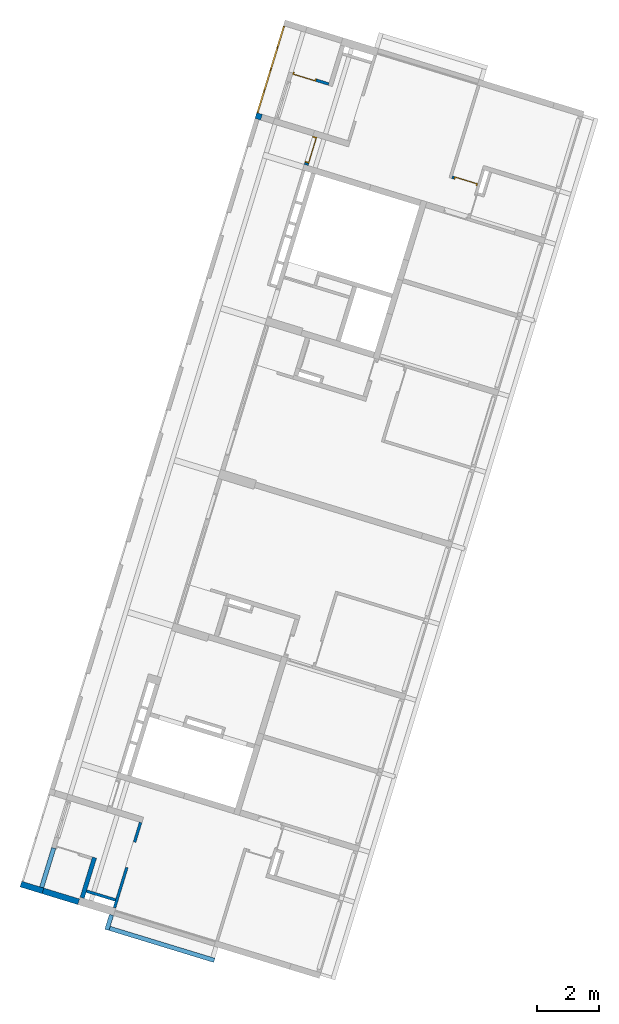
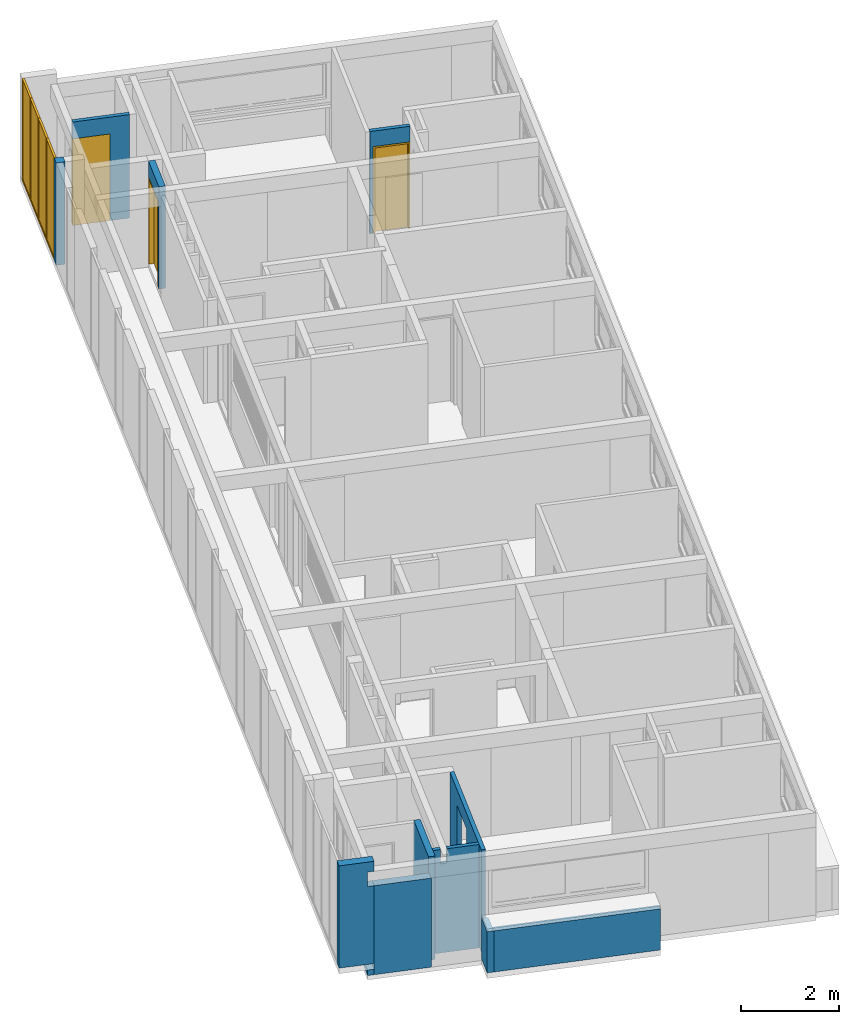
# One storey, part 4 of 18: 12 walls, 4 windows, 3 doors, 8 openings.
"""IFC2X3 building model written with IfcOpenShell, lengths in millimetres."""

from ifc_helpers import new_model, entity, si_unit, converted_unit, derived_unit, money_unit, direction, frame, origin_with_axes, place, context, subcontext, project, spatial, open_shell, faceted_brep, surface_model, source, transform, mapped, material, type_object, element, fill, save


model = new_model("IFC2X3")

# Units and contexts
model_context = context("Model", 3, precision=0.01, world=origin_with_axes(), true_north=direction((0.0, 1.0)))
body_context = subcontext(model_context, "Body", "Model", "MODEL_VIEW")
ifc_project = project(units=[si_unit("LENGTHUNIT", "METRE", prefix="MILLI"), si_unit("AREAUNIT", "SQUARE_METRE"), si_unit("VOLUMEUNIT", "CUBIC_METRE"), converted_unit("PLANEANGLEUNIT", "DEGREE", entity("IfcPlaneAngleMeasure", 0.0174532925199), si_unit("PLANEANGLEUNIT", "RADIAN"), dimensions=[0, 0, 0, 0, 0, 0, 0]), money_unit("USD"), converted_unit("TIMEUNIT", "Year", entity("IfcTimeMeasure", 31556926.0), si_unit("TIMEUNIT", "SECOND"), dimensions=[0, 0, 1, 0, 0, 0, 0]), si_unit("MASSUNIT", "GRAM", prefix="KILO"), si_unit("THERMODYNAMICTEMPERATUREUNIT", "DEGREE_CELSIUS"), si_unit("LUMINOUSINTENSITYUNIT", "LUMEN"), si_unit("ENERGYUNIT", "JOULE", prefix="MEGA"), derived_unit("THERMALCONDUCTANCEUNIT", [(si_unit("POWERUNIT", "WATT"), 1), (si_unit("LENGTHUNIT", "METRE"), -1), (si_unit("THERMODYNAMICTEMPERATUREUNIT", "KELVIN"), -1)]), derived_unit("SPECIFICHEATCAPACITYUNIT", [(si_unit("ENERGYUNIT", "JOULE"), 1), (si_unit("MASSUNIT", "GRAM", prefix="KILO"), -1), (si_unit("THERMODYNAMICTEMPERATUREUNIT", "KELVIN"), -1)]), derived_unit("MASSDENSITYUNIT", [(si_unit("MASSUNIT", "GRAM", prefix="KILO"), 1), (si_unit("VOLUMEUNIT", "CUBIC_METRE"), -1)])], contexts=[model_context])

# Site, building, storey, space
site_placement = place(None, frame((0.0, 0.0, 0.0), z_axis=(0.0, 0.0, 1.0), x_axis=(0.956304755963, -0.292371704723, 0.0)))
site = spatial("IfcSite", under=ifc_project, at=site_placement, Name="Site", CompositionType="ELEMENT")
building_placement = place(site_placement, origin_with_axes())
building = spatial("IfcBuilding", under=site, at=building_placement, Name="Building", CompositionType="ELEMENT")
storey_placement = place(building_placement, origin_with_axes())
storey = spatial("IfcBuildingStorey", under=building, at=storey_placement, Name="Pavimento tipo", CompositionType="ELEMENT", Elevation=0.0)
space_1_placement = place(storey_placement, frame((1481.71507604, 4250.00139822, 0.0), z_axis=(0.0, 0.0, 1.0), x_axis=(3.39571890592e-07, -1.0, 0.0)))
space_1 = spatial("IfcSpace", under=storey, at=space_1_placement, Name="01", CompositionType="ELEMENT", InteriorOrExteriorSpace="INTERNAL")

# Wall
ifc_material = material(Name="Tijolo - Estrutural")
wall_type_1 = type_object("IfcWallType", Name="Tijolo - Estrutural 90", PredefinedType="NOTDEFINED")
wall_1_placement = place(space_1_placement, frame((3755.01121696, -70.0050285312, -30.0), z_axis=(0.0, 0.0, 1.0), x_axis=(3.40450498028e-07, 1.0, 0.0)))
element("IfcWall", 1, at=wall_1_placement, inside=space_1, type_object=wall_type_1, material=ifc_material, Name="Apt 01 - Parede 05", context=body_context, shape_type="Brep", body=[
    faceted_brep([(230.002125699, 45.0000002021, 2590.0), (230.002125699, 45.0000002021, 2230.0), (370.002125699, 45.0000003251, 2230.0), (370.002125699, 45.0000003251, 2590.0), (1039.99987828, 45.0000009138, 2590.0), (1039.99966569, 45.0000009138, 0.0), (70.0000063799, 45.0000000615, 0.0), (70.0000063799, 45.0000000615, 2590.0), (230.002125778, -44.9999997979, 2230.0), (230.002125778, -44.9999997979, 2590.0), (370.002125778, -44.9999996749, 2230.0), (370.002125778, -44.9999996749, 2590.0), (1039.99987836, -44.9999990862, 2590.0), (1039.99965848, -44.9999990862, 0.0), (70.0000064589, -44.9999999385, 0.0), (70.0000064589, -44.9999999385, 2590.0)], [[[0, 1, 2, 3, 4, 5, 6, 7]], [[8, 1, 0, 9]], [[10, 2, 1, 8]], [[10, 11, 3, 2]], [[4, 3, 11, 12]], [[4, 12, 13, 5]], [[14, 6, 5, 13]], [[6, 14, 15, 7]], [[15, 9, 0, 7]], [[10, 8, 9, 15, 14, 13, 12, 11]]]),
])

# Wall, opening
wall_2_placement = place(space_1_placement, frame((4000.0016946, 1014.9947666, 0.0), z_axis=(0.0, 0.0, 1.0), x_axis=(-1.0, 3.39571890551e-07, 0.0)))
wall_2 = element("IfcWall", 2, at=wall_2_placement, inside=space_1, type_object=wall_type_1, material=ifc_material, Name="Apt 01 - Parede 18", context=body_context, shape_type="Brep", body=[
    faceted_brep([(1350.0006258, -45.0, 0.0), (1350.0006258, -45.0, 2170.0), (2200.0006258, -45.0, 2170.0), (2200.0006258, -45.0, 0.0), (2859.99983929, -45.0, 0.0), (2859.99983929, -45.0, 2560.0), (0.0, -45.0, 2560.0), (0.0, -45.0, 0.0), (1350.0006258, 45.0, 0.0), (1350.0006258, 45.0, 2170.0), (2200.0006258, 45.0, 2170.0), (2200.0006258, 45.0, 0.0), (2860.00016071, 45.0, 0.0), (2860.00016071, 45.0, 2560.0), (0.0, 45.0, 2560.0), (0.0, 45.0, 0.0)], [[[0, 1, 2, 3, 4, 5, 6, 7]], [[1, 0, 8, 9]], [[2, 1, 9, 10]], [[3, 2, 10, 11]], [[3, 11, 12, 4]], [[5, 4, 12, 13]], [[13, 14, 6, 5]], [[6, 14, 15, 7]], [[8, 0, 7, 15]], [[9, 8, 15, 14, 13, 12, 11, 10]]]),
])
opening_1_placement = place(wall_2_placement, frame((1775.0006258, 0.0, 0.0), z_axis=(0.0, 0.0, 1.0), x_axis=(1.0, 0.0, 0.0)))
element("IfcOpeningElement", 3, at=opening_1_placement, cuts=wall_2, Name="Apt 01 - Vão 01", context=body_context, shape_type="Brep", body=[
    faceted_brep([(425.0, -45.0, 0.0), (425.0, -45.0, 2170.0), (425.0, -46.0, 2170.0), (425.0, -46.0, 0.0), (425.0, 46.0, 0.0), (425.0, 46.0, 2170.0), (-425.0, -45.0, 2170.0), (-425.0, -46.0, 2170.0), (-425.0, -46.0, 0.0), (-425.0, -45.0, 0.0), (-425.0, 46.0, 0.0), (-425.0, 46.0, 2170.0)], [[[0, 1, 2, 3]], [[1, 0, 4, 5]], [[1, 6, 7, 2]], [[8, 3, 2, 7]], [[9, 0, 3, 8]], [[0, 9, 10, 4]], [[5, 4, 10, 11]], [[6, 1, 5, 11]], [[6, 9, 8, 7]], [[9, 6, 11, 10]]]),
])

# Space
space_2_placement = place(storey_placement, frame((1481.71158317, 24839.9981298, 0.0), z_axis=(0.0, 0.0, 1.0), x_axis=(1.0, -1.55460451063e-08, 0.0)))
space_2 = spatial("IfcSpace", under=storey, at=space_2_placement, Name="04", CompositionType="ELEMENT", InteriorOrExteriorSpace="INTERNAL")

# Wall, opening, door
wall_3_placement = place(space_2_placement, frame((-69.9999011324, 2650.00180861, -30.0), z_axis=(0.0, 0.0, 1.0), x_axis=(-0.999999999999, 1.55527101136e-06, 0.0)))
wall_3 = element("IfcWall", 4, at=wall_3_placement, inside=space_2, type_object=wall_type_1, material=ifc_material, Name="Apt 04 - Parede 06", context=body_context, shape_type="Brep", body=[
    faceted_brep([(1270.0186412, 0.0, 2170.0), (1270.0186412, 0.0, 2230.0), (1270.01999645, -90.0, 2230.0), (1270.0186412, -90.0, 2170.0), (490.018641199, 0.0, 2170.0), (490.018641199, 0.0, 0.0), (70.0000000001, 0.0, 0.0), (70.0000000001, 0.0, 2590.0), (1269.99827489, 0.0, 2590.0), (1269.99827489, 0.0, 2230.0), (1269.99841626, -90.0, 2230.0), (1269.99841626, -90.0, 2590.0), (70.0001413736, -90.0, 2590.0), (70.0001413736, -90.0, 0.0), (490.018641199, -90.0, 0.0), (490.018641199, -90.0, 2170.0)], [[[0, 1, 2, 3]], [[1, 0, 4, 5, 6, 7, 8, 9]], [[1, 9, 10, 2]], [[2, 10, 11, 12, 13, 14, 15, 3]], [[0, 3, 15, 4]], [[5, 4, 15, 14]], [[5, 14, 13, 6]], [[13, 12, 7, 6]], [[8, 7, 12, 11]], [[10, 9, 8, 11]]]),
])
opening_2_placement = place(wall_3_placement, frame((880.018641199, 0.0, 0.0), z_axis=(0.0, 0.0, 1.0), x_axis=(1.0, 0.0, 0.0)))
opening_2 = element("IfcOpeningElement", 5, at=opening_2_placement, cuts=wall_3, Name="Apt 04 - Porta 02", context=body_context, shape_type="Brep", body=[
    faceted_brep([(390.0, 1.00199496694, 2170.0), (390.0, 1.00199496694, 0.0), (-390.0, 1.00199496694, 0.0), (-390.0, 1.00199496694, 2170.0), (390.0, -91.0019949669, 2170.0), (390.0, -91.0019949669, 0.0), (-390.0, -91.0019949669, 0.0), (-390.0, -91.0019949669, 2170.0)], [[[0, 1, 2, 3]], [[4, 5, 1, 0]], [[5, 6, 2, 1]], [[6, 7, 3, 2]], [[7, 4, 0, 3]], [[6, 5, 4, 7]]]),
])
door_style_1 = type_object("IfcDoorStyle", Name="Door 26", ConstructionType="NOTDEFINED", OperationType="SINGLE_SWING_RIGHT", ParameterTakesPrecedence=False, Sizeable=False)
shared_shape_1 = source(origin_with_axes(), body_context, "Body", "Brep", [
    faceted_brep([(-350.0, -30.0, 0.0), (-350.0, -30.0, 2130.0), (-350.0, -90.0, 2130.0), (-350.0, -90.0, 0.0), (-360.0, -30.0, 2130.0), (-360.0, -30.0, 0.0), (-360.0, 0.0, 2130.0), (-390.0, 0.0, 2130.0), (-390.0, -90.0, 2130.0), (-390.0, -90.0, 0.0), (-390.0, 0.0, 0.0), (-360.0, 0.0, 0.0)], [[[0, 1, 2, 3]], [[4, 1, 0, 5]], [[4, 6, 7, 8, 2, 1]], [[3, 2, 8, 9]], [[5, 0, 3, 9, 10, 11]], [[6, 4, 5, 11]], [[6, 11, 10, 7]], [[10, 9, 8, 7]]]),
    faceted_brep([(360.0, -30.0, 2130.0), (350.0, -30.0, 2130.0), (350.0, -90.0, 2130.0), (390.0, -90.0, 2130.0), (390.0, 0.0, 2130.0), (360.0, 0.0, 2130.0), (360.0, -30.0, 0.0), (350.0, -30.0, 0.0), (350.0, -90.0, 0.0), (390.0, -90.0, 0.0), (390.0, 0.0, 0.0), (360.0, 0.0, 0.0)], [[[0, 1, 2, 3, 4, 5]], [[1, 0, 6, 7]], [[1, 7, 8, 2]], [[3, 2, 8, 9]], [[4, 3, 9, 10]], [[11, 5, 4, 10]], [[0, 5, 11, 6]], [[6, 11, 10, 9, 8, 7]]]),
    faceted_brep([(-360.0, 0.0, 2140.0), (-360.0, 0.0, 2130.0), (-390.0, 0.0, 2130.0), (-390.0, 0.0, 2170.0), (390.0, 0.0, 2170.0), (390.0, 0.0, 2130.0), (360.0, 0.0, 2130.0), (360.0, 0.0, 2140.0), (-360.0, -30.0, 2140.0), (-360.0, -30.0, 2130.0), (-350.0, -30.0, 2130.0), (-350.0, -90.0, 2130.0), (-390.0, -90.0, 2130.0), (-390.0, -90.0, 2170.0), (390.0, -90.0, 2170.0), (390.0, -90.0, 2130.0), (360.0, -30.0, 2130.0), (350.0, -90.0, 2130.0), (350.0, -30.0, 2130.0), (360.0, -30.0, 2140.0)], [[[0, 1, 2, 3, 4, 5, 6, 7]], [[1, 0, 8, 9]], [[9, 10, 11, 12, 2, 1]], [[2, 12, 13, 3]], [[3, 13, 14, 4]], [[4, 14, 15, 5]], [[16, 6, 5, 15, 17, 18]], [[7, 6, 16, 19]], [[0, 7, 19, 8]], [[16, 18, 10, 9, 8, 19]], [[10, 18, 17, 11]], [[17, 15, 14, 13, 12, 11]]]),
    faceted_brep([(360.0, 0.0, 0.0), (360.0, -30.0, 0.0), (-360.0, -30.0, 0.0), (-360.0, 0.0, 0.0), (360.0, 0.0, 2140.0), (360.0, -30.0, 2140.0), (-360.0, -30.0, 2140.0), (-360.0, 0.0, 2140.0)], [[[0, 1, 2, 3]], [[4, 5, 1, 0]], [[1, 5, 6, 2]], [[3, 2, 6, 7]], [[0, 3, 7, 4]], [[7, 6, 5, 4]]]),
])
door_1_placement = place(opening_2_placement, frame((-390.0, 0.0, 0.0), z_axis=(0.0, 0.0, 1.0), x_axis=(1.0, 0.0, 0.0)))
door_1 = element("IfcDoor", 6, at=door_1_placement, inside=space_2, type_object=door_style_1, Name="Apt 04 - Porta 02", OverallHeight=2170.0, OverallWidth=780.0, context=body_context, shape_type="MappedRepresentation", body=[
    mapped(shared_shape_1, transform((390.0, 0.0, 0.0))),
])
fill(opening_2, door_1)

wall_4_placement = place(space_2_placement, frame((4430.00185041, 949.991973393, 0.0), z_axis=(0.0, 0.0, 1.0), x_axis=(1.0, 8.21768756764e-08, 0.0)))
wall_4 = element("IfcWall", 7, at=wall_4_placement, inside=space_2, type_object=wall_type_1, material=ifc_material, Name="Apt 04 - Parede 10", context=body_context, shape_type="Brep", body=[
    faceted_brep([(939.998515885, -6.26328819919e-05, 2170.0), (939.998521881, 89.9999373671, 2170.0), (939.998891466, 89.9999373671, 2560.0), (939.998891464, -6.26329068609e-05, 2560.0), (159.998521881, 89.9999893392, 2170.0), (159.998515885, -1.06608339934e-05, 2170.0), (159.998521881, 89.9999893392, 0.0), (90.0000843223, 89.9999940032, 0.0), (90.0000843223, 89.9999940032, 2560.0), (90.0, -5.99677463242e-06, 2560.0), (90.0, -5.99677463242e-06, 0.0), (159.998515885, -1.06608339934e-05, 0.0)], [[[0, 1, 2, 3]], [[4, 1, 0, 5]], [[4, 6, 7, 8, 2, 1]], [[2, 8, 9, 3]], [[5, 0, 3, 9, 10, 11]], [[6, 4, 5, 11]], [[6, 11, 10, 7]], [[7, 10, 9, 8]]]),
])
opening_3_placement = place(wall_4_placement, frame((549.998515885, 0.0, 0.0), z_axis=(0.0, 0.0, 1.0), x_axis=(1.0, 0.0, 0.0)))
opening_3 = element("IfcOpeningElement", 8, at=opening_3_placement, cuts=wall_4, Name="Apt 04 - Porta 03", context=body_context, shape_type="Brep", body=[
    faceted_brep([(390.000006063, 91.0, 2170.0), (390.000006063, 91.0, 0.0), (-389.999993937, 91.0000519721, 0.0), (-389.999993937, 91.0000519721, 2170.0), (389.999999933, -1.00006263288, 2170.0), (389.999999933, -1.00006263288, 0.0), (-390.000000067, -1.00001066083, 0.0), (-390.000000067, -1.00001066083, 2170.0)], [[[0, 1, 2, 3]], [[4, 5, 1, 0]], [[5, 6, 2, 1]], [[6, 7, 3, 2]], [[7, 4, 0, 3]], [[6, 5, 4, 7]]]),
])
door_style_2 = type_object("IfcDoorStyle", Name="Door 26", ConstructionType="NOTDEFINED", OperationType="SINGLE_SWING_LEFT", ParameterTakesPrecedence=False, Sizeable=False)
shared_shape_2 = source(origin_with_axes(), body_context, "Body", "Brep", [
    faceted_brep([(350.0, -30.0, 0.0), (350.0, -90.0, 0.0), (350.0, -90.0, 2130.0), (350.0, -30.0, 2130.0), (360.0, -30.0, 0.0), (360.0, 0.0, 0.0), (390.0, 0.0, 0.0), (390.0, -90.0, 0.0), (390.0, -90.0, 2130.0), (360.0, -30.0, 2130.0), (390.0, 0.0, 2130.0), (360.0, 0.0, 2130.0)], [[[0, 1, 2, 3]], [[4, 5, 6, 7, 1, 0]], [[1, 7, 8, 2]], [[9, 3, 2, 8, 10, 11]], [[9, 4, 0, 3]], [[11, 5, 4, 9]], [[11, 10, 6, 5]], [[6, 10, 8, 7]]]),
    faceted_brep([(-360.0, -30.0, 2130.0), (-360.0, 0.0, 2130.0), (-390.0, 0.0, 2130.0), (-390.0, -90.0, 2130.0), (-350.0, -90.0, 2130.0), (-350.0, -30.0, 2130.0), (-360.0, -30.0, 0.0), (-360.0, 0.0, 0.0), (-390.0, 0.0, 0.0), (-390.0, -90.0, 0.0), (-350.0, -90.0, 0.0), (-350.0, -30.0, 0.0)], [[[0, 1, 2, 3, 4, 5]], [[0, 6, 7, 1]], [[7, 8, 2, 1]], [[2, 8, 9, 3]], [[3, 9, 10, 4]], [[5, 4, 10, 11]], [[5, 11, 6, 0]], [[6, 11, 10, 9, 8, 7]]]),
    faceted_brep([(360.0, 0.0, 2140.0), (-360.0, 0.0, 2140.0), (-360.0, 0.0, 2130.0), (-390.0, 0.0, 2130.0), (-390.0, 0.0, 2170.0), (390.0, 0.0, 2170.0), (390.0, 0.0, 2130.0), (360.0, 0.0, 2130.0), (360.0, -30.0, 2140.0), (-360.0, -30.0, 2140.0), (-360.0, -30.0, 2130.0), (-350.0, -30.0, 2130.0), (-350.0, -90.0, 2130.0), (-390.0, -90.0, 2130.0), (-390.0, -90.0, 2170.0), (390.0, -90.0, 2170.0), (390.0, -90.0, 2130.0), (360.0, -30.0, 2130.0), (350.0, -90.0, 2130.0), (350.0, -30.0, 2130.0)], [[[0, 1, 2, 3, 4, 5, 6, 7]], [[0, 8, 9, 1]], [[1, 9, 10, 2]], [[10, 11, 12, 13, 3, 2]], [[4, 3, 13, 14]], [[5, 4, 14, 15]], [[6, 5, 15, 16]], [[17, 7, 6, 16, 18, 19]], [[7, 17, 8, 0]], [[10, 9, 8, 17, 19, 11]], [[19, 18, 12, 11]], [[12, 18, 16, 15, 14, 13]]]),
    faceted_brep([(-360.0, 0.0, 0.0), (360.0, 0.0, 0.0), (360.0, -30.0, 0.0), (-360.0, -30.0, 0.0), (-360.0, 0.0, 2140.0), (360.0, 0.0, 2140.0), (360.0, -30.0, 2140.0), (-360.0, -30.0, 2140.0)], [[[0, 1, 2, 3]], [[0, 4, 5, 1]], [[1, 5, 6, 2]], [[3, 2, 6, 7]], [[4, 0, 3, 7]], [[5, 4, 7, 6]]]),
])
door_2_placement = place(opening_3_placement, frame((-390.0, 0.0, 0.0), z_axis=(0.0, 0.0, 1.0), x_axis=(1.0, 0.0, 0.0)))
door_2 = element("IfcDoor", 9, at=door_2_placement, inside=space_2, type_object=door_style_2, Name="Apt 04 - Porta 03", OverallHeight=2170.0, OverallWidth=780.0, context=body_context, shape_type="MappedRepresentation", body=[
    mapped(shared_shape_2, transform((390.000005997, 89.9999633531, 0.0))),
])
fill(opening_3, door_2)

# Walls
wall_type_2 = type_object("IfcWallType", Name="Tijolo - Estrutural 140", PredefinedType="NOTDEFINED")
wall_5_placement = place(space_1_placement, frame((4250.00089507, -1481.71651922, -30.0), z_axis=(0.0, 0.0, 1.0), x_axis=(-0.99999934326, 0.00114607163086, 0.0)))
element("IfcWall", 10, at=wall_5_placement, inside=space_1, type_object=wall_type_2, material=ifc_material, Name="Parede 67", context=body_context, shape_type="Brep", body=[
    faceted_brep([(0.0, -140.0, 140.0), (1510.00071376, -140.0, 140.0), (1510.00071376, 0.0, 140.0), (0.0, 0.0, 140.0), (0.0, -140.0, 0.0), (1510.00071376, -140.0, 0.0), (1510.00071376, 0.0, 0.0), (0.0, 0.0, 0.0)], [[[0, 1, 2, 3]], [[4, 5, 1, 0]], [[2, 1, 5, 6]], [[3, 2, 6, 7]], [[4, 0, 3, 7]], [[7, 6, 5, 4]]]),
])
wall_6_placement = place(space_1_placement, frame((4000.00132617, -70.0051053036, -30.0), z_axis=(0.0, 0.0, 1.0), x_axis=(-1.0, 3.39571890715e-07, 0.0)))
element("IfcWall", 11, at=wall_6_placement, inside=space_1, type_object=wall_type_2, material=ifc_material, Name="Apt 01 - Parede 17", context=body_context, shape_type="Brep", body=[
    faceted_brep([(1349.99020479, -70.0, 2590.0), (1349.98998487, 70.0, 2590.0), (0.0, 70.0, 2590.0), (0.0, -70.0, 2590.0), (1349.99020479, -70.0, 0.0), (1349.98998487, 70.0, 0.0), (0.0, 70.0, 0.0), (0.0, -70.0, 0.0)], [[[0, 1, 2, 3]], [[1, 0, 4, 5]], [[1, 5, 6, 2]], [[7, 3, 2, 6]], [[4, 0, 3, 7]], [[5, 4, 7, 6]]]),
])
wall_7_placement = place(space_1_placement, frame((4750.00195538, 1059.99389981, 0.0), z_axis=(0.0, 0.0, 1.0), x_axis=(3.41025143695e-07, 1.0, 0.0)))
element("IfcWall", 12, at=wall_7_placement, inside=space_1, type_object=wall_type_2, material=ifc_material, Name="Apt 01 - Parede 26", context=body_context, shape_type="Brep", body=[
    faceted_brep([(3510.0001812, 140.000005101, 0.0), (3510.00018141, 5.10091902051e-06, 0.0), (0.0, 0.0, 0.0), (-1.95606641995e-07, 140.0, 0.0), (3510.0001812, 140.000005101, 1030.0), (3510.00018141, 5.10091913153e-06, 1030.0), (0.0, 0.0, 1030.0), (-1.95606641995e-07, 140.0, 1030.0)], [[[0, 1, 2, 3]], [[1, 0, 4, 5]], [[1, 5, 6, 2]], [[7, 3, 2, 6]], [[4, 0, 3, 7]], [[5, 4, 7, 6]]]),
])
wall_8_placement = place(storey_placement, frame((2541.71058885, 4.82766466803e-05, 0.0), z_axis=(0.0, 0.0, 1.0), x_axis=(0.0, -1.0, 0.0)))
element("IfcWall", 13, at=wall_8_placement, inside=storey, type_object=wall_type_2, material=ifc_material, Name="Apt 01 - Parede 25", context=body_context, shape_type="Brep", body=[
    faceted_brep([(500.000245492, 2.80317991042e-08, 0.0), (0.0100139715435, 0.00112654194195, 0.0), (0.0100139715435, 0.00112654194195, 1030.0), (500.000245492, 2.80317991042e-08, 1030.0), (500.000245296, -139.999999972, 0.0), (0.0100139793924, -140.0, 0.0), (0.0100139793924, -140.0, 1030.0), (500.000245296, -139.999999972, 1030.0)], [[[0, 1, 2, 3]], [[4, 5, 1, 0]], [[5, 6, 2, 1]], [[3, 2, 6, 7]], [[7, 4, 0, 3]], [[7, 6, 5, 4]]]),
])

# Wall, opening, door
wall_9_placement = place(storey_placement, frame((1341.71344835, 24839.9900343, 0.0), z_axis=(0.0, 0.0, 1.0), x_axis=(0.0, 1.0, 0.0)))
wall_9 = element("IfcWall", 14, at=wall_9_placement, inside=storey, type_object=wall_type_2, material=ifc_material, Name="Apt 04 - Parede 22", context=body_context, shape_type="Brep", body=[
    faceted_brep([(69.9958750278, -140.0, 0.0), (69.9958750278, -140.0, 2170.0), (949.995875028, -140.0, 2170.0), (949.995875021, -140.0, 2560.0), (0.0, -140.0, 2560.0), (0.0, -140.0, 0.0), (69.9958750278, 9.04829544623e-07, 0.0), (69.9958750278, 0.0, 2170.0), (949.995875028, 0.00129506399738, 2170.0), (949.995875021, 0.00152561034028, 2560.0), (0.0, 0.0, 2560.0), (0.0, 0.0, 0.0)], [[[0, 1, 2, 3, 4, 5]], [[1, 0, 6, 7]], [[8, 2, 1, 7]], [[2, 8, 9, 3]], [[4, 3, 9, 10]], [[10, 11, 5, 4]], [[6, 0, 5, 11]], [[7, 6, 11, 10, 9, 8]]]),
])
opening_4_placement = place(wall_9_placement, frame((509.995875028, 0.0, 0.0), z_axis=(0.0, 0.0, 1.0), x_axis=(1.0, 0.0, 0.0)))
opening_4 = element("IfcOpeningElement", 15, at=opening_4_placement, cuts=wall_9, Name="Apt 04 - Porta 01", context=body_context, shape_type="Brep", body=[
    faceted_brep([(-440.0, -141.0, 2170.0), (-440.0, -141.0, 0.0), (440.0, -141.0, 0.0), (440.0, -141.0, 2170.0), (-440.0, 1.0, 2170.0), (-440.0, 1.0, 0.0), (440.0, 1.0, 0.0), (440.0, 1.0, 2170.0)], [[[0, 1, 2, 3]], [[4, 5, 1, 0]], [[5, 6, 2, 1]], [[6, 7, 3, 2]], [[7, 4, 0, 3]], [[6, 5, 4, 7]]]),
])
shared_shape_3 = source(origin_with_axes(), body_context, "Body", "Brep", [
    faceted_brep([(-400.0, -30.0, 0.0), (-400.0, -30.0, 2130.0), (-400.0, -140.0, 2130.0), (-400.0, -140.0, 0.0), (-410.0, -30.0, 2130.0), (-410.0, -30.0, 0.0), (-410.0, 0.0, 2130.0), (-440.0, 0.0, 2130.0), (-440.0, -140.0, 2130.0), (-440.0, -140.0, 0.0), (-440.0, 0.0, 0.0), (-410.0, 0.0, 0.0)], [[[0, 1, 2, 3]], [[4, 1, 0, 5]], [[4, 6, 7, 8, 2, 1]], [[3, 2, 8, 9]], [[5, 0, 3, 9, 10, 11]], [[6, 4, 5, 11]], [[6, 11, 10, 7]], [[10, 9, 8, 7]]]),
    faceted_brep([(410.0, -30.0, 2130.0), (400.0, -30.0, 2130.0), (400.0, -140.0, 2130.0), (440.0, -140.0, 2130.0), (440.0, 0.0, 2130.0), (410.0, 0.0, 2130.0), (410.0, -30.0, 0.0), (400.0, -30.0, 0.0), (400.0, -140.0, 0.0), (440.0, -140.0, 0.0), (440.0, 0.0, 0.0), (410.0, 0.0, 0.0)], [[[0, 1, 2, 3, 4, 5]], [[1, 0, 6, 7]], [[1, 7, 8, 2]], [[3, 2, 8, 9]], [[4, 3, 9, 10]], [[11, 5, 4, 10]], [[0, 5, 11, 6]], [[6, 11, 10, 9, 8, 7]]]),
    faceted_brep([(-410.0, 0.0, 2140.0), (-410.0, 0.0, 2130.0), (-440.0, 0.0, 2130.0), (-440.0, 0.0, 2170.0), (440.0, 0.0, 2170.0), (440.0, 0.0, 2130.0), (410.0, 0.0, 2130.0), (410.0, 0.0, 2140.0), (-410.0, -30.0, 2140.0), (-410.0, -30.0, 2130.0), (-400.0, -30.0, 2130.0), (-400.0, -140.0, 2130.0), (-440.0, -140.0, 2130.0), (-440.0, -140.0, 2170.0), (440.0, -140.0, 2170.0), (440.0, -140.0, 2130.0), (410.0, -30.0, 2130.0), (400.0, -140.0, 2130.0), (400.0, -30.0, 2130.0), (410.0, -30.0, 2140.0)], [[[0, 1, 2, 3, 4, 5, 6, 7]], [[1, 0, 8, 9]], [[9, 10, 11, 12, 2, 1]], [[2, 12, 13, 3]], [[3, 13, 14, 4]], [[4, 14, 15, 5]], [[16, 6, 5, 15, 17, 18]], [[7, 6, 16, 19]], [[0, 7, 19, 8]], [[16, 18, 10, 9, 8, 19]], [[10, 18, 17, 11]], [[17, 15, 14, 13, 12, 11]]]),
    faceted_brep([(410.0, 0.0, 0.0), (410.0, -30.0, 0.0), (-410.0, -30.0, 0.0), (-410.0, 0.0, 0.0), (410.0, 0.0, 2140.0), (410.0, -30.0, 2140.0), (-410.0, -30.0, 2140.0), (-410.0, 0.0, 2140.0)], [[[0, 1, 2, 3]], [[4, 5, 1, 0]], [[1, 5, 6, 2]], [[3, 2, 6, 7]], [[0, 3, 7, 4]], [[7, 6, 5, 4]]]),
])
door_3_placement = place(opening_4_placement, frame((440.0, 0.0, 0.0), z_axis=(0.0, 0.0, 1.0), x_axis=(-1.0, 0.0, 0.0)))
door_3 = element("IfcDoor", 16, at=door_3_placement, inside=storey, type_object=door_style_1, Name="Apt 04 - Porta 01", OverallHeight=2170.0, OverallWidth=880.0, context=body_context, shape_type="MappedRepresentation", body=[
    mapped(shared_shape_3, transform((440.0, 140.0, 0.0))),
])
fill(opening_4, door_3)

# Walls
wall_type_3 = type_object("IfcWallType", Name="Tijolo - Estrutural 190", PredefinedType="NOTDEFINED")
wall_10_placement = place(space_1_placement, frame((4155.01325009, -1340.00343287, 250.0), z_axis=(0.0, 0.0, 1.0), x_axis=(-1.70357639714e-05, -0.999999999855, 0.0)))
element("IfcWall", 17, at=wall_10_placement, inside=space_1, type_object=wall_type_3, material=ifc_material, Name="Apt 01 - Parede 01", context=body_context, shape_type="Brep", body=[
    faceted_brep([(3.90976695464e-08, 94.9976585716, 2310.0), (139.998019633, 94.9999962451, 2310.0), (140.001191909, -95.0, 2310.0), (0.00119192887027, -95.002341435, 2310.0), (3.90976695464e-08, 94.9976585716, 1950.0), (139.998019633, 94.9999962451, 1950.0), (0.0, 95.0, 2560.0), (739.998768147, 95.0, 2560.0), (739.998768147, 95.0, 0.0), (0.0, 95.0, 0.0), (140.001191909, -95.0, 1950.0), (0.00119192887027, -95.002341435, 1950.0), (0.0, -95.0, 0.0), (740.002069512, -95.0, 0.0), (740.002069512, -95.0, 2560.0), (0.0, -95.0, 2560.0)], [[[0, 1, 2, 3]], [[4, 5, 1, 0, 6, 7, 8, 9]], [[5, 10, 2, 1]], [[2, 10, 11, 12, 13, 14, 15, 3]], [[15, 6, 0, 3]], [[4, 11, 10, 5]], [[14, 7, 6, 15]], [[13, 8, 7, 14]], [[8, 13, 12, 9]], [[9, 12, 11, 4]]]),
])
wall_11_placement = place(space_1_placement, frame((4155.01088081, -1340.00343283, -30.0), z_axis=(0.0, 0.0, 1.0), x_axis=(3.62971729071e-07, 1.0, 0.0)))
element("IfcWall", 18, at=wall_11_placement, inside=space_1, type_object=wall_type_3, material=ifc_material, Name="Apt 01 - Parede 02", context=body_context, shape_type="Brep", body=[
    faceted_brep([(2.22298465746e-06, -95.0, 0.0), (-2.22298465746e-06, 95.0, 0.0), (1199.99866126, 95.0000280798, 0.0), (1199.9986657, -94.9999719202, 0.0), (2.22298465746e-06, -95.0, 2230.0), (-2.22298465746e-06, 95.0, 2230.0), (1199.99866126, 95.0000280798, 2230.0), (1199.9986657, -94.9999719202, 2230.0)], [[[0, 1, 2, 3]], [[4, 5, 1, 0]], [[1, 5, 6, 2]], [[7, 3, 2, 6]], [[4, 0, 3, 7]], [[5, 4, 7, 6]]]),
])

# Wall, openings, windows
wall_12_placement = place(space_2_placement, frame((-1984.99861818, 4154.99345979, 250.0), z_axis=(0.0, 0.0, 1.0), x_axis=(-6.63868837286e-07, -1.0, 0.0)))
wall_12 = element("IfcWall", 19, at=wall_12_placement, inside=space_2, type_object=wall_type_3, material=ifc_material, Name="Apt 04 - Parede 15", context=body_context, shape_type="Brep", body=[
    faceted_brep([(3014.98758357, 95.0, 0.0), (3014.98758357, 95.0, 2560.0), (3204.98758368, 95.0, 2560.0), (3204.98758368, 95.0, 0.0), (3014.99834933, 94.9892338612, 2560.0), (3014.99834933, 94.9892338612, 0.0), (3014.99834933, -95.0, 2560.0), (3204.98094837, -95.0, 2560.0), (3204.98094837, -95.0, 0.0), (3014.99834933, -95.0, 0.0)], [[[0, 1, 2, 3]], [[4, 1, 0, 5]], [[4, 6, 7, 2, 1]], [[2, 7, 8, 3]], [[5, 0, 3, 8, 9]], [[6, 4, 5, 9]], [[6, 9, 8, 7]]]),
])
opening_5_placement = place(wall_12_placement, frame((459.998349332, 0.0, 0.0), z_axis=(0.0, 0.0, 1.0), x_axis=(1.0, 0.0, 0.0)))
opening_5 = element("IfcOpeningElement", 20, at=opening_5_placement, cuts=wall_12, Name="Apt 04 - J01", context=body_context, shape_type="Brep", body=[
    faceted_brep([(365.0, 96.0021775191, 2560.0), (365.0, 96.0021775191, 0.0), (-365.0, 96.0021775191, 0.0), (-365.0, 96.0021775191, 2560.0), (365.0, -96.0021775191, 2560.0), (365.0, -96.0021775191, 0.0), (-365.0, -96.0021775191, 0.0), (-365.0, -96.0021775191, 2560.0)], [[[0, 1, 2, 3]], [[4, 5, 1, 0]], [[5, 6, 2, 1]], [[6, 7, 3, 2]], [[7, 4, 0, 3]], [[6, 5, 4, 7]]]),
])
opening_6_placement = place(wall_12_placement, frame((1189.99834933, 0.0, 0.0), z_axis=(0.0, 0.0, 1.0), x_axis=(1.0, 0.0, 0.0)))
opening_6 = element("IfcOpeningElement", 21, at=opening_6_placement, cuts=wall_12, Name="Apt 04 - J02", context=body_context, shape_type="Brep", body=[
    faceted_brep([(365.0, 96.0021775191, 2560.0), (365.0, 96.0021775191, 0.0), (-365.0, 96.0021775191, 0.0), (-365.0, 96.0021775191, 2560.0), (365.0, -96.0021775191, 2560.0), (365.0, -96.0021775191, 0.0), (-365.0, -96.0021775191, 0.0), (-365.0, -96.0021775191, 2560.0)], [[[0, 1, 2, 3]], [[4, 5, 1, 0]], [[5, 6, 2, 1]], [[6, 7, 3, 2]], [[7, 4, 0, 3]], [[6, 5, 4, 7]]]),
])
opening_7_placement = place(wall_12_placement, frame((1919.99834933, 0.0, 0.0), z_axis=(0.0, 0.0, 1.0), x_axis=(1.0, 0.0, 0.0)))
opening_7 = element("IfcOpeningElement", 22, at=opening_7_placement, cuts=wall_12, Name="Apt 04 - J03", context=body_context, shape_type="Brep", body=[
    faceted_brep([(365.0, 96.0021775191, 2560.0), (365.0, 96.0021775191, 0.0), (-365.0, 96.0021775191, 0.0), (-365.0, 96.0021775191, 2560.0), (365.0, -96.0021775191, 2560.0), (365.0, -96.0021775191, 0.0), (-365.0, -96.0021775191, 0.0), (-365.0, -96.0021775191, 2560.0)], [[[0, 1, 2, 3]], [[4, 5, 1, 0]], [[5, 6, 2, 1]], [[6, 7, 3, 2]], [[7, 4, 0, 3]], [[6, 5, 4, 7]]]),
])
opening_8_placement = place(wall_12_placement, frame((2649.99834933, 0.0, 0.0), z_axis=(0.0, 0.0, 1.0), x_axis=(1.0, 0.0, 0.0)))
opening_8 = element("IfcOpeningElement", 23, at=opening_8_placement, cuts=wall_12, Name="Apt 04 - J04", context=body_context, shape_type="Brep", body=[
    faceted_brep([(363.987091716, 96.0021775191, 0.0), (-365.0, 96.0021775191, 0.0), (-365.0, 96.0021775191, 2560.0), (363.987091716, 96.0021775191, 2560.0), (365.0, -96.0021775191, 0.0), (-365.0, -96.0021775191, 0.0), (365.0, 94.9892338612, 0.0), (-365.0, -96.0021775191, 2560.0), (365.0, -96.0021775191, 2560.0), (365.0, 94.9892338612, 2560.0)], [[[0, 1, 2, 3]], [[4, 5, 1, 0, 6]], [[5, 7, 2, 1]], [[7, 8, 9, 3, 2]], [[0, 3, 9, 6]], [[5, 4, 8, 7]], [[8, 4, 6, 9]]]),
])
window_style = type_object("IfcWindowStyle", Name="Janela 26", ConstructionType="NOTDEFINED", OperationType="SINGLE_PANEL", ParameterTakesPrecedence=False, Sizeable=False)
shared_shape_4 = source(origin_with_axes(), body_context, "Body", "SurfaceModel", [
    faceted_brep([(-330.0, -50.0, 2525.0), (-330.0, 0.0, 2525.0), (-365.0, 0.0, 2525.0), (-365.0, -50.0, 2525.0), (-330.0, -50.0, 35.0), (-330.0, 0.0, 35.0), (-365.0, 0.0, 35.0), (-365.0, -50.0, 35.0)], [[[0, 1, 2, 3]], [[4, 5, 1, 0]], [[1, 5, 6, 2]], [[3, 2, 6, 7]], [[0, 3, 7, 4]], [[7, 6, 5, 4]]]),
    faceted_brep([(330.0, -50.0, 35.0), (330.0, 0.0, 35.0), (365.0, 0.0, 35.0), (365.0, -50.0, 35.0), (330.0, -50.0, 2525.0), (330.0, 0.0, 2525.0), (365.0, 0.0, 2525.0), (365.0, -50.0, 2525.0)], [[[0, 1, 2, 3]], [[4, 5, 1, 0]], [[1, 5, 6, 2]], [[3, 2, 6, 7]], [[0, 3, 7, 4]], [[7, 6, 5, 4]]]),
    faceted_brep([(-330.0, -50.0, 35.0), (-330.0, 0.0, 35.0), (-365.0, 0.0, 35.0), (-365.0, -50.0, 35.0), (330.0, -50.0, 35.0), (330.0, 0.0, 35.0), (365.0, 0.0, 35.0), (365.0, 0.0, 0.0), (-365.0, 0.0, 0.0), (-365.0, -50.0, 0.0), (365.0, -50.0, 0.0), (365.0, -50.0, 35.0)], [[[0, 1, 2, 3]], [[4, 5, 1, 0]], [[1, 5, 6, 7, 8, 2]], [[3, 2, 8, 9]], [[0, 3, 9, 10, 11, 4]], [[11, 6, 5, 4]], [[10, 7, 6, 11]], [[9, 8, 7, 10]]]),
    faceted_brep([(330.0, -50.0, 2525.0), (330.0, 0.0, 2525.0), (365.0, 0.0, 2525.0), (365.0, -50.0, 2525.0), (-330.0, -50.0, 2525.0), (-330.0, 0.0, 2525.0), (-365.0, 0.0, 2525.0), (-365.0, 0.0, 2560.0), (365.0, 0.0, 2560.0), (365.0, -50.0, 2560.0), (-365.0, -50.0, 2560.0), (-365.0, -50.0, 2525.0)], [[[0, 1, 2, 3]], [[4, 5, 1, 0]], [[1, 5, 6, 7, 8, 2]], [[3, 2, 8, 9]], [[0, 3, 9, 10, 11, 4]], [[11, 6, 5, 4]], [[10, 7, 6, 11]], [[9, 8, 7, 10]]]),
    surface_model("IfcShellBasedSurfaceModel", [(330.0, -35.0, 35.0), (330.0, -35.0, 2525.0), (-330.0, -35.0, 2525.0), (-330.0, -35.0, 35.0)], [open_shell([[[0, 1, 2, 3]]])]),
    surface_model("IfcShellBasedSurfaceModel", [(330.0, -15.0, 35.0), (-330.0, -15.0, 35.0), (-330.0, -15.0, 2525.0), (330.0, -15.0, 2525.0)], [open_shell([[[0, 1, 2, 3]]])]),
])
window_1_placement = place(opening_5_placement, frame((-365.0, 0.0, 0.0), z_axis=(0.0, 0.0, 1.0), x_axis=(1.0, 0.0, 0.0)))
window_1 = element("IfcWindow", 24, at=window_1_placement, inside=space_2, type_object=window_style, Name="Apt 04 - J01", OverallHeight=2560.0, OverallWidth=730.0, context=body_context, shape_type="MappedRepresentation", body=[
    mapped(shared_shape_4, transform((365.0, -45.0, 0.0))),
])
fill(opening_5, window_1)
window_2_placement = place(opening_6_placement, frame((-365.0, 0.0, 0.0), z_axis=(0.0, 0.0, 1.0), x_axis=(1.0, 0.0, 0.0)))
window_2 = element("IfcWindow", 25, at=window_2_placement, inside=space_2, type_object=window_style, Name="Apt 04 - J02", OverallHeight=2560.0, OverallWidth=730.0, context=body_context, shape_type="MappedRepresentation", body=[
    mapped(shared_shape_4, transform((365.0, -45.0, 0.0))),
])
fill(opening_6, window_2)
window_3_placement = place(opening_7_placement, frame((-365.0, 0.0, 0.0), z_axis=(0.0, 0.0, 1.0), x_axis=(1.0, 0.0, 0.0)))
window_3 = element("IfcWindow", 26, at=window_3_placement, inside=space_2, type_object=window_style, Name="Apt 04 - J03", OverallHeight=2560.0, OverallWidth=730.0, context=body_context, shape_type="MappedRepresentation", body=[
    mapped(shared_shape_4, transform((365.0, -45.0, 0.0))),
])
fill(opening_7, window_3)
window_4_placement = place(opening_8_placement, frame((-365.0, 0.0, 0.0), z_axis=(0.0, 0.0, 1.0), x_axis=(1.0, 0.0, 0.0)))
window_4 = element("IfcWindow", 27, at=window_4_placement, inside=space_2, type_object=window_style, Name="Apt 04 - J04", OverallHeight=2560.0, OverallWidth=730.0, context=body_context, shape_type="MappedRepresentation", body=[
    mapped(shared_shape_4, transform((365.0, -45.0, 0.0))),
])
fill(opening_8, window_4)

save(model, "model.ifc")
